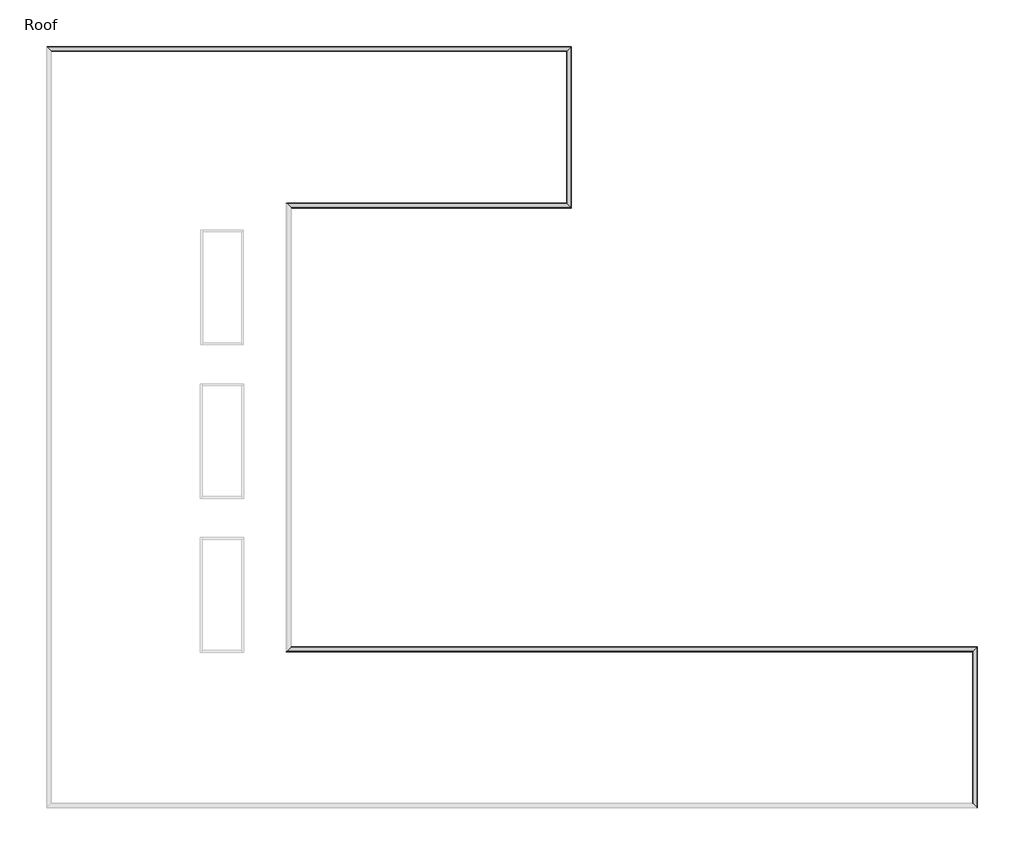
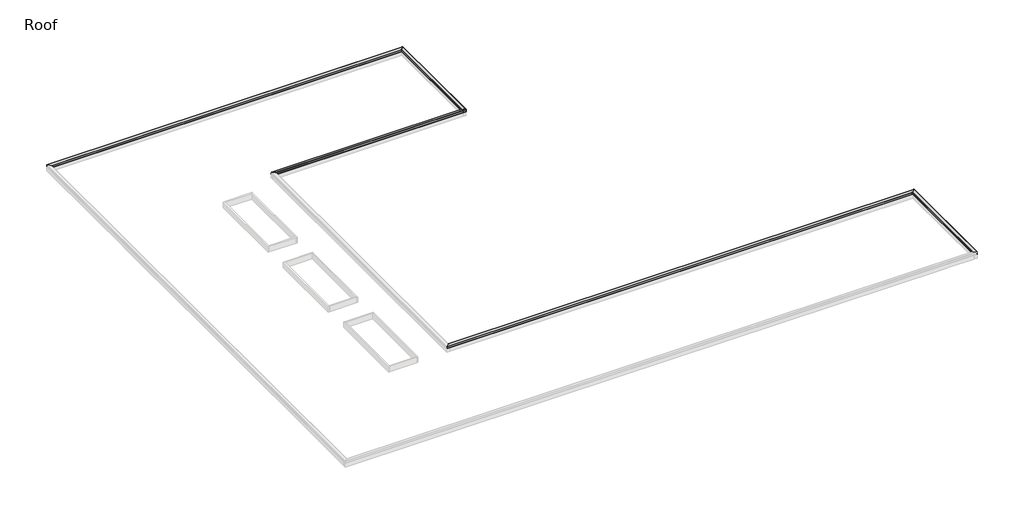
# One storey, part 2 of 2: 5 proxies.
"""IFC4 building model written with IfcOpenShell, lengths in millimetres."""

import ifcopenshell
import ifcopenshell.guid

model = None  # the IFC model being written
_history = None  # IfcOwnerHistory: only IFC2X3 demands one
_inside = {}  # id of a spatial element -> (the spatial element, [elements in it])
_under = {}  # id of a project, library or spatial element -> (it, [spatial elements below it])
_declared = {}  # id of a project -> (the project, [libraries it declares])
_typed = {}  # id of a type object -> (the type object, [elements of that type])
_made_of = {}  # id of a material, layer set ... -> (it, [elements and type objects made of it])


def new_model(schema):
    """Start an empty IFC model of exactly this schema.

    Asked for "IFC4X3", IfcOpenShell would pick the latest addendum, in which some entities
    have other attributes; the version numbers below select the first issue.
    IFC2X3 requires an IfcOwnerHistory on every rooted entity: one is made here for all.
    """
    global model, _history
    if schema == "IFC4X3":
        model = ifcopenshell.file(schema_version=(4, 3, 0, 0))
    else:
        model = ifcopenshell.file(schema=schema)
    _inside.clear()
    _under.clear()
    _declared.clear()
    _typed.clear()
    _made_of.clear()
    _history = None
    if model.schema == "IFC2X3":
        org = make("IfcOrganization", Name="unknown")
        user = make(
            "IfcPersonAndOrganization",
            ThePerson=make("IfcPerson", FamilyName="unknown"),
            TheOrganization=org,
        )
        app = make(
            "IfcApplication",
            ApplicationDeveloper=org,
            Version="unknown",
            ApplicationFullName="unknown",
            ApplicationIdentifier="unknown",
        )
        _history = make(
            "IfcOwnerHistory",
            OwningUser=user,
            OwningApplication=app,
            ChangeAction="ADDED",
            CreationDate=0,
        )
    return model


def make(cls, **values):
    """One entity of the class cls with the attributes given. An attribute that is None is left unset."""
    return model.create_entity(
        cls, **{name: value for name, value in values.items() if value is not None}
    )


def rooted(cls, **values):
    """An entity with a GlobalId (a new one), such as an element, a storey or a relation."""
    return make(cls, GlobalId=ifcopenshell.guid.new(), OwnerHistory=_history, **values)


def si_unit(unit_type, name, prefix=None):
    """IfcSIUnit, for example si_unit("LENGTHUNIT", "METRE", prefix="MILLI")."""
    return make("IfcSIUnit", UnitType=unit_type, Prefix=prefix, Name=name)


def assignment(units):
    """IfcUnitAssignment: the units of a project."""
    return None if units is None else make("IfcUnitAssignment", Units=units)


def point(xyz):
    """IfcCartesianPoint."""
    return None if xyz is None else make("IfcCartesianPoint", Coordinates=xyz)


def direction(xyz):
    """IfcDirection."""
    return None if xyz is None else make("IfcDirection", DirectionRatios=xyz)


def frame(location, z_axis=None, x_axis=None):
    """IfcAxis2Placement3D, a coordinate frame: its origin and axes. An axis left out is left unset."""
    return make(
        "IfcAxis2Placement3D",
        Location=point(location),
        Axis=direction(z_axis),
        RefDirection=direction(x_axis),
    )


def origin():
    """The frame at (0, 0, 0) with its axes left unset."""
    return frame((0.0, 0.0, 0.0))


def place(relative_to, where):
    """IfcLocalPlacement: puts the frame where relative to a parent placement (None: the world)."""
    return make(
        "IfcLocalPlacement", PlacementRelTo=relative_to, RelativePlacement=where
    )


def context(
    kind, dimensions, precision=None, world=None, true_north=None, identifier=None
):
    """IfcGeometricRepresentationContext, for example the 3D "Model" context."""
    return make(
        "IfcGeometricRepresentationContext",
        ContextIdentifier=identifier,
        ContextType=kind,
        CoordinateSpaceDimension=dimensions,
        Precision=precision,
        WorldCoordinateSystem=world,
        TrueNorth=true_north,
    )


def project(units=None, contexts=None):
    """IfcProject with its units and contexts."""
    return rooted(
        "IfcProject",
        Name="project",
        RepresentationContexts=contexts,
        UnitsInContext=assignment(units),
    )


def spatial(cls, under=None, at=None, **own):
    """A site, building, storey or space (cls), placed at a placement, below another one or the project."""
    s = rooted(cls, ObjectPlacement=at, **own)
    if under is not None:
        _under.setdefault(under.id(), (under, []))[1].append(s)
    return s


def ellipse_curve(where, semi_axis1, semi_axis2):
    """IfcEllipse in the frame where."""
    return make(
        "IfcEllipse", Position=where, SemiAxis1=semi_axis1, SemiAxis2=semi_axis2
    )


def shape(context_of_items, identifier, shape_type, items):
    """IfcShapeRepresentation: the items that make up one representation, for example the "Body"."""
    return make(
        "IfcShapeRepresentation",
        ContextOfItems=context_of_items,
        RepresentationIdentifier=identifier,
        RepresentationType=shape_type,
        Items=items,
    )


def made_of(thing, what):
    """Note that an element or type object is made of a material, layer set ...; save() writes the relation."""
    if what is not None:
        _made_of.setdefault(what.id(), (what, []))[1].append(thing)
    return thing


def element(
    cls,
    number,
    at=None,
    inside=None,
    cuts=None,
    type_object=None,
    material=None,
    context=None,
    identifier="Body",
    shape_type=None,
    held_by="IfcProductDefinitionShape",
    body=None,
    shapes=None,
    **own,
):
    """One element of the class cls, such as IfcWall. Its Tag is "e" and its number.

    at: its placement. inside: the storey or other place that contains it. cuts: it is an
    opening in that element (IfcRelVoidsElement). A single representation is given by context,
    identifier, shape_type and body (its items); several are given by shapes. held_by: the class
    of the entity that holds the representations. save() writes the other relations.
    """
    e = rooted(cls, Tag="e%d" % number, ObjectPlacement=at, **own)
    if body is not None:
        shapes = [shape(context, identifier, shape_type, body)]
    if shapes is not None:
        e.Representation = make(held_by, Representations=shapes)
    if inside is not None:
        _inside.setdefault(inside.id(), (inside, []))[1].append(e)
    if cuts is not None:
        rooted(
            "IfcRelVoidsElement", RelatingBuildingElement=cuts, RelatedOpeningElement=e
        )
    if type_object is not None:
        _typed.setdefault(type_object.id(), (type_object, []))[1].append(e)
    return made_of(e, material)


def aggregate(whole, parts):
    """IfcRelAggregates: a whole, such as a stair, and the parts it consists of."""
    return rooted("IfcRelAggregates", RelatingObject=whole, RelatedObjects=parts)


def save(model, path):
    """Write the relations noted so far, then the file.

    IfcRelAggregates (storeys below a building ...), IfcRelContainedInSpatialStructure (elements
    in a storey), IfcRelDefinesByType, IfcRelAssociatesMaterial and IfcRelDeclares: one each for
    every whole, place, type object, material and project.
    """
    for whole, parts in _under.values():
        aggregate(whole, parts)
    for where, things in _inside.values():
        rooted(
            "IfcRelContainedInSpatialStructure",
            RelatedElements=things,
            RelatingStructure=where,
        )
    for kind, things in _typed.values():
        rooted("IfcRelDefinesByType", RelatedObjects=things, RelatingType=kind)
    for what, things in _made_of.values():
        rooted("IfcRelAssociatesMaterial", RelatedObjects=things, RelatingMaterial=what)
    for by, libraries in _declared.values():
        rooted("IfcRelDeclares", RelatingContext=by, RelatedDefinitions=libraries)
    model.write(path)


def plane_surface(at):
    """IfcPlane: the flat surface through the origin of the frame at, square to its z axis."""
    return make("IfcPlane", Position=at)


def cylinder_surface(at, radius):
    """IfcCylindricalSurface: all points at the distance radius from the z axis of the frame at."""
    return make("IfcCylindricalSurface", Position=at, Radius=radius)


def advanced_brep(points, edges, surfaces, faces):
    """IfcAdvancedBrep: a solid bounded by faces that lie on surfaces and meet in shared edges.

    An edge is (start, end): straight between two places in points (the first is 0);
    or (start, end, curve); or (start, end, curve, False) where it runs against its curve.
    A face is (place in surfaces, loops), or (place, loops, False) where it looks against
    its surface's normal. A loop lists edges by number (the first is 1), with a minus sign
    where the edge is run from its end to its start. The first loop is the outer one.
    """
    corners = [point(p) for p in points]
    vertices = [make("IfcVertexPoint", VertexGeometry=c) for c in corners]
    made = []
    for start, end, *more in edges:
        made.append(
            make(
                "IfcEdgeCurve",
                EdgeStart=vertices[start],
                EdgeEnd=vertices[end],
                EdgeGeometry=more[0] if more else make("IfcPolyline", Points=[corners[start], corners[end]]),
                SameSense=more[1] if len(more) > 1 else True,
            )
        )
    hull = []
    for where, loops, *sense in faces:
        bounds = []
        for j, loop in enumerate(loops):
            ring = [make("IfcOrientedEdge", EdgeElement=made[abs(k) - 1], Orientation=k > 0) for k in loop]
            bounds.append(
                make(
                    "IfcFaceOuterBound" if j == 0 else "IfcFaceBound",
                    Bound=make("IfcEdgeLoop", EdgeList=ring),
                    Orientation=True,
                )
            )
        hull.append(make("IfcAdvancedFace", Bounds=bounds, FaceSurface=surfaces[where], SameSense=sense[0] if sense else True))
    return make("IfcAdvancedBrep", Outer=make("IfcClosedShell", CfsFaces=hull))


model = new_model("IFC4")

# Units and contexts
model_context = context("Model", 3, world=origin())
ifc_project = project(units=[si_unit("LENGTHUNIT", "METRE", prefix="MILLI")], contexts=[model_context])

# Site, building, storey
site = spatial("IfcSite", under=ifc_project)
building = spatial("IfcBuilding", under=site)
storey = spatial("IfcBuildingStorey", under=building, Name="Roof", Elevation=10972.8)

# Proxies
placement = place(None, origin())
element("IfcBuildingElementProxy", 1, Name="Wall Sweeps", at=placement, inside=storey, context=model_context, shape_type="AdvancedBrep", body=[
    advanced_brep(
    [(37361.1457476, 54038.425, 11636.9329619), (37361.1457476, 54038.425, 11647.1824239), (37364.3207476, 54041.6, 11647.1824239), (37364.3207476, 54041.6, 11431.2824239), (37381.3349718, 54058.6142242, 11414.2681997), (37379.1062599, 54056.3855122, 11412.0394878), (37361.1457476, 54038.425, 11430.0), (37361.1457476, 54038.425, 11633.7462366), (37053.1707476, 53730.45, 11607.2537634), (37053.1707476, 53730.45, 11430.0), (37035.2102354, 53712.4894877, 11412.0394878), (37032.9651714, 53710.2444237, 11414.2845518), (37049.9957476, 53727.275, 11431.3151281), (37049.9957476, 53727.275, 11607.5268817), (37044.7672416, 53722.0464939, 11607.0771178), (37045.8777162, 53723.1569685, 11609.8131313), (37361.1457476, 42551.275, 11636.9329619), (37045.8777162, 42866.5430314, 11609.8131313), (37044.7672416, 42867.653506, 11607.0771178), (37049.9957476, 42862.425, 11607.5268817), (37049.9957476, 42862.425, 11431.3151281), (37032.9651714, 42879.4555762, 11414.2845518), (37035.2102354, 42877.2105122, 11412.0394878), (37053.1707476, 42859.25, 11430.0), (37053.1707476, 42859.25, 11607.2537634), (37361.1457476, 42551.275, 11633.7462366), (37361.1457476, 42551.275, 11430.0), (37379.1062599, 42533.3144877, 11412.0394878), (37381.3349718, 42531.0857758, 11414.2681997), (37364.3207476, 42548.1, 11431.2824239), (37364.3207476, 42548.1, 11647.1824239), (37361.1457476, 42551.275, 11647.1824239)],
    [
        (0, 1),
        (1, 2, ellipse_curve(frame((37362.7332476, 54040.0125, 11647.1824239), z_axis=(-0.7071067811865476, 0.7071067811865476, 0.0), x_axis=(0.7071067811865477, 0.7071067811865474, 0.0)), 2.245064, 1.5875)),
        (2, 3),
        (3, 4),
        (4, 5),
        (5, 6),
        (6, 7),
        (7, 8),
        (8, 9),
        (9, 10),
        (10, 11),
        (11, 12),
        (12, 13),
        (13, 14),
        (14, 15, ellipse_curve(frame((37044.7672416, 53722.0464939, 11608.6704804), z_axis=(-0.7071067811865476, 0.7071067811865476, 0.0), x_axis=(0.7071067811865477, 0.7071067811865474, 0.0)), 2.2533551, 1.5933627)),
        (15, 0),
        (16, 17),
        (17, 18, ellipse_curve(frame((37044.7672416, 42867.653506, 11608.6704804), z_axis=(-0.7071067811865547, -0.7071067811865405, 0.0), x_axis=(-0.7071067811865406, 0.7071067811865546, 0.0)), 2.2533551, 1.5933627)),
        (18, 19),
        (19, 20),
        (20, 21),
        (21, 22),
        (22, 23),
        (23, 24),
        (24, 25),
        (25, 26),
        (26, 27),
        (27, 28),
        (28, 29),
        (29, 30),
        (30, 31, ellipse_curve(frame((37362.7332476, 42549.6875, 11647.1824239), z_axis=(-0.7071067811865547, -0.7071067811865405, 0.0), x_axis=(-0.7071067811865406, 0.7071067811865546, 0.0)), 2.245064, 1.5875)),
        (31, 16),
        (0, 16),
        (31, 1),
        (30, 2),
        (29, 3),
        (28, 4),
        (27, 5),
        (26, 6),
        (25, 7),
        (24, 8),
        (23, 9),
        (22, 10),
        (21, 11),
        (20, 12),
        (19, 13),
        (18, 14),
        (17, 15),
    ],
    [
        plane_surface(frame((37354.7957476, 54032.075, 11887.2), z_axis=(-0.7071067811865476, 0.7071067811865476, 0.0), x_axis=(-0.7071067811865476, -0.7071067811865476, 0.0))),
        plane_surface(frame((37354.7957476, 42557.625, 11887.2), z_axis=(-0.7071067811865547, -0.7071067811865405, 0.0), x_axis=(-0.7071067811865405, 0.7071067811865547, 0.0))),
        plane_surface(frame((37361.1457476, 54038.425, 11636.9329619), z_axis=(-1.0, 0.0, 0.0), x_axis=(0.0, -1.0, 0.0))),
        cylinder_surface(frame((37362.7332476, 54032.075, 11647.1824239), z_axis=(0.0, 1.0, 0.0), x_axis=(-1.0, 0.0, 0.0)), 1.5875),
        plane_surface(frame((37364.3207476, 54041.6, 11647.1824239), z_axis=(1.0, 0.0, 0.0), x_axis=(0.0, -1.0, 0.0))),
        plane_surface(frame((37364.3207476, 54041.6, 11431.2824239), z_axis=(0.7071067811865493, 0.0, 0.7071067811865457), x_axis=(0.0, -1.0, 0.0))),
        plane_surface(frame((37381.3349718, 54058.6142242, 11414.2681997), z_axis=(0.7071067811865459, 0.0, -0.7071067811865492), x_axis=(0.0, -1.0, 0.0))),
        plane_surface(frame((37379.1062599, 54056.3855122, 11412.0394878), z_axis=(-0.7071067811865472, 0.0, -0.7071067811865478), x_axis=(0.0, -1.0, 0.0))),
        plane_surface(frame((37361.1457476, 54038.425, 11430.0), z_axis=(-1.0, 0.0, 0.0), x_axis=(0.0, -1.0, 0.0))),
        plane_surface(frame((37361.1457476, 54038.425, 11633.7462366), z_axis=(0.08570499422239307, 0.0, -0.9963205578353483), x_axis=(0.0, -1.0, 0.0))),
        plane_surface(frame((37053.1707476, 53730.45, 11607.2537634), z_axis=(1.0, 0.0, 0.0), x_axis=(0.0, -1.0, 0.0))),
        plane_surface(frame((37053.1707476, 53730.45, 11430.0), z_axis=(0.707106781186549, 0.0, -0.707106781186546), x_axis=(0.0, -1.0, 0.0))),
        plane_surface(frame((37035.2102354, 53712.4894877, 11412.0394878), z_axis=(-0.7071067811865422, 0.0, -0.7071067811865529), x_axis=(0.0, -1.0, 0.0))),
        plane_surface(frame((37032.9651714, 53710.2444237, 11414.2845518), z_axis=(-0.7071067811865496, 0.0, 0.7071067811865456), x_axis=(0.0, -1.0, 0.0))),
        plane_surface(frame((37049.9957476, 53727.275, 11431.3151281), z_axis=(-1.0, 0.0, 0.0), x_axis=(0.0, -1.0, 0.0))),
        plane_surface(frame((37049.9957476, 53727.275, 11607.5268817), z_axis=(0.08570499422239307, 0.0, -0.9963205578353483), x_axis=(0.0, -1.0, 0.0))),
        cylinder_surface(frame((37044.7672416, 54032.075, 11608.6704804), z_axis=(0.0, 1.0, 0.0), x_axis=(-1.0, 0.0, 0.0)), 1.5933627),
        plane_surface(frame((37045.8777162, 53723.1569685, 11609.8131313), z_axis=(-0.08570499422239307, 0.0, 0.9963205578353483), x_axis=(0.0, -1.0, 0.0))),
    ],
    [
        (0, [[1, 2, 3, 4, 5, 6, 7, 8, 9, 10, 11, 12, 13, 14, 15, 16]]),
        (1, [[17, 18, 19, 20, 21, 22, 23, 24, 25, 26, 27, 28, 29, 30, 31, 32]]),
        (2, [[-1, 33, -32, 34]]),
        (3, [[-2, -34, -31, 35]]),
        (4, [[-3, -35, -30, 36]]),
        (5, [[-4, -36, -29, 37]]),
        (6, [[-5, -37, -28, 38]]),
        (7, [[-6, -38, -27, 39]]),
        (8, [[-7, -39, -26, 40]]),
        (9, [[-8, -40, -25, 41]]),
        (10, [[-9, -41, -24, 42]]),
        (11, [[-10, -42, -23, 43]]),
        (12, [[-11, -43, -22, 44]]),
        (13, [[-12, -44, -21, 45]]),
        (14, [[-13, -45, -20, 46]]),
        (15, [[-14, -46, -19, 47]]),
        (16, [[-15, -47, -18, 48]]),
        (17, [[-16, -48, -17, -33]]),
    ],
),
])
element("IfcBuildingElementProxy", 2, Name="Wall Sweeps", at=placement, inside=storey, context=model_context, shape_type="AdvancedBrep", body=[
    advanced_brep(
    [(37361.1457476, 42551.275, 11636.9329619), (37361.1457476, 42551.275, 11647.1824239), (37364.3207476, 42548.1, 11647.1824239), (37364.3207476, 42548.1, 11431.2824239), (37381.3349718, 42531.0857758, 11414.2681997), (37379.1062599, 42533.3144877, 11412.0394878), (37361.1457476, 42551.275, 11430.0), (37361.1457476, 42551.275, 11633.7462366), (37053.1707476, 42859.25, 11607.2537634), (37053.1707476, 42859.25, 11430.0), (37035.2102354, 42877.2105122, 11412.0394878), (37032.9651714, 42879.4555762, 11414.2845518), (37049.9957476, 42862.425, 11431.3151281), (37049.9957476, 42862.425, 11607.5268817), (37044.7672416, 42867.653506, 11607.0771178), (37045.8777162, 42866.5430314, 11609.8131313), (17384.0457476, 42551.275, 11636.9329619), (17068.7777162, 42866.5430314, 11609.8131313), (17067.6672416, 42867.653506, 11607.0771178), (17072.8957476, 42862.425, 11607.5268817), (17072.8957476, 42862.425, 11431.3151281), (17055.8651714, 42879.4555762, 11414.2845518), (17058.1102354, 42877.2105122, 11412.0394878), (17076.0707476, 42859.25, 11430.0), (17076.0707476, 42859.25, 11607.2537634), (17384.0457476, 42551.275, 11633.7462366), (17384.0457476, 42551.275, 11430.0), (17402.0062599, 42533.3144877, 11412.0394878), (17404.2349718, 42531.0857758, 11414.2681997), (17387.2207476, 42548.1, 11431.2824239), (17387.2207476, 42548.1, 11647.1824239), (17384.0457476, 42551.275, 11647.1824239)],
    [
        (0, 1),
        (1, 2, ellipse_curve(frame((37362.7332476, 42549.6875, 11647.1824239), z_axis=(0.7071067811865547, 0.7071067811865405, 0.0), x_axis=(0.7071067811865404, -0.7071067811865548, 0.0)), 2.245064, 1.5875)),
        (2, 3),
        (3, 4),
        (4, 5),
        (5, 6),
        (6, 7),
        (7, 8),
        (8, 9),
        (9, 10),
        (10, 11),
        (11, 12),
        (12, 13),
        (13, 14),
        (14, 15, ellipse_curve(frame((37044.7672416, 42867.653506, 11608.6704804), z_axis=(0.7071067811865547, 0.7071067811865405, 0.0), x_axis=(0.7071067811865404, -0.7071067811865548, 0.0)), 2.2533551, 1.5933627)),
        (15, 0),
        (16, 17),
        (17, 18, ellipse_curve(frame((17067.6672416, 42867.653506, 11608.6704804), z_axis=(-0.7071067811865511, -0.707106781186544, 0.0), x_axis=(0.7071067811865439, -0.7071067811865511, 0.0)), 2.2533551, 1.5933627)),
        (18, 19),
        (19, 20),
        (20, 21),
        (21, 22),
        (22, 23),
        (23, 24),
        (24, 25),
        (25, 26),
        (26, 27),
        (27, 28),
        (28, 29),
        (29, 30),
        (30, 31, ellipse_curve(frame((17385.6332476, 42549.6875, 11647.1824239), z_axis=(-0.7071067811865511, -0.707106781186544, 0.0), x_axis=(0.7071067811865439, -0.7071067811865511, 0.0)), 2.245064, 1.5875)),
        (31, 16),
        (0, 16),
        (31, 1),
        (30, 2),
        (29, 3),
        (28, 4),
        (27, 5),
        (26, 6),
        (25, 7),
        (24, 8),
        (23, 9),
        (22, 10),
        (21, 11),
        (20, 12),
        (19, 13),
        (18, 14),
        (17, 15),
    ],
    [
        plane_surface(frame((37354.7957476, 42557.625, 11887.2), z_axis=(0.7071067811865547, 0.7071067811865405, 0.0), x_axis=(-0.7071067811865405, 0.7071067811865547, 0.0))),
        plane_surface(frame((17377.6957476, 42557.625, 11277.6), z_axis=(-0.7071067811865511, -0.707106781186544, 0.0), x_axis=(0.707106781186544, -0.7071067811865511, 0.0))),
        plane_surface(frame((37361.1457476, 42551.275, 11636.9329619), z_axis=(0.0, 1.0, 0.0), x_axis=(-1.0, 0.0, 0.0))),
        cylinder_surface(frame((37354.7957476, 42549.6875, 11647.1824239), z_axis=(1.0, 0.0, 0.0), x_axis=(0.0, 1.0, 0.0)), 1.5875),
        plane_surface(frame((37364.3207476, 42548.1, 11647.1824239), z_axis=(0.0, -1.0, 0.0), x_axis=(-1.0, 0.0, 0.0))),
        plane_surface(frame((37364.3207476, 42548.1, 11431.2824239), z_axis=(0.0, -0.7071067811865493, 0.7071067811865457), x_axis=(-1.0, 0.0, 0.0))),
        plane_surface(frame((37381.3349718, 42531.0857758, 11414.2681997), z_axis=(0.0, -0.7071067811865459, -0.7071067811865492), x_axis=(-1.0, 0.0, 0.0))),
        plane_surface(frame((37379.1062599, 42533.3144877, 11412.0394878), z_axis=(0.0, 0.7071067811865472, -0.7071067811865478), x_axis=(-1.0, 0.0, 0.0))),
        plane_surface(frame((37361.1457476, 42551.275, 11430.0), z_axis=(0.0, 1.0, 0.0), x_axis=(-1.0, 0.0, 0.0))),
        plane_surface(frame((37361.1457476, 42551.275, 11633.7462366), z_axis=(0.0, -0.08570499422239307, -0.9963205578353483), x_axis=(-1.0, 0.0, 0.0))),
        plane_surface(frame((37053.1707476, 42859.25, 11607.2537634), z_axis=(0.0, -1.0, 0.0), x_axis=(-1.0, 0.0, 0.0))),
        plane_surface(frame((37053.1707476, 42859.25, 11430.0), z_axis=(0.0, -0.707106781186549, -0.707106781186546), x_axis=(-1.0, 0.0, 0.0))),
        plane_surface(frame((37035.2102354, 42877.2105122, 11412.0394878), z_axis=(0.0, 0.7071067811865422, -0.7071067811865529), x_axis=(-1.0, 0.0, 0.0))),
        plane_surface(frame((37032.9651714, 42879.4555762, 11414.2845518), z_axis=(0.0, 0.7071067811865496, 0.7071067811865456), x_axis=(-1.0, 0.0, 0.0))),
        plane_surface(frame((37049.9957476, 42862.425, 11431.3151281), z_axis=(0.0, 1.0, 0.0), x_axis=(-1.0, 0.0, 0.0))),
        plane_surface(frame((37049.9957476, 42862.425, 11607.5268817), z_axis=(0.0, -0.08570499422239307, -0.9963205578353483), x_axis=(-1.0, 0.0, 0.0))),
        cylinder_surface(frame((37354.7957476, 42867.653506, 11608.6704804), z_axis=(1.0, 0.0, 0.0), x_axis=(0.0, 1.0, 0.0)), 1.5933627),
        plane_surface(frame((37045.8777162, 42866.5430314, 11609.8131313), z_axis=(0.0, 0.08570499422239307, 0.9963205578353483), x_axis=(-1.0, 0.0, 0.0))),
    ],
    [
        (0, [[1, 2, 3, 4, 5, 6, 7, 8, 9, 10, 11, 12, 13, 14, 15, 16]]),
        (1, [[17, 18, 19, 20, 21, 22, 23, 24, 25, 26, 27, 28, 29, 30, 31, 32]]),
        (2, [[-1, 33, -32, 34]]),
        (3, [[-2, -34, -31, 35]]),
        (4, [[-3, -35, -30, 36]]),
        (5, [[-4, -36, -29, 37]]),
        (6, [[-5, -37, -28, 38]]),
        (7, [[-6, -38, -27, 39]]),
        (8, [[-7, -39, -26, 40]]),
        (9, [[-8, -40, -25, 41]]),
        (10, [[-9, -41, -24, 42]]),
        (11, [[-10, -42, -23, 43]]),
        (12, [[-11, -43, -22, 44]]),
        (13, [[-12, -44, -21, 45]]),
        (14, [[-13, -45, -20, 46]]),
        (15, [[-14, -46, -19, 47]]),
        (16, [[-15, -47, -18, 48]]),
        (17, [[-16, -48, -17, -33]]),
    ],
),
])
element("IfcBuildingElementProxy", 3, Name="Wall Sweeps", at=placement, inside=storey, context=model_context, shape_type="AdvancedBrep", body=[
    advanced_brep(
    [(17384.0457476, 11201.325, 11636.9329619), (17384.0457476, 11201.325, 11647.1824239), (17387.2207476, 11204.5, 11647.1824239), (17387.2207476, 11204.5, 11431.2824239), (17404.2349718, 11221.5142242, 11414.2681997), (17402.0062599, 11219.2855122, 11412.0394878), (17384.0457476, 11201.325, 11430.0), (17384.0457476, 11201.325, 11633.7462366), (17076.0707476, 10893.35, 11607.2537634), (17076.0707476, 10893.35, 11430.0), (17058.1102354, 10875.3894877, 11412.0394878), (17055.8651714, 10873.1444237, 11414.2845518), (17072.8957476, 10890.175, 11431.3151281), (17072.8957476, 10890.175, 11607.5268817), (17067.6672416, 10884.9464939, 11607.0771178), (17068.7777162, 10886.0569685, 11609.8131313), (66317.1457476, 11201.325, 11636.9329619), (66001.8777162, 10886.0569685, 11609.8131313), (66000.7672416, 10884.9464939, 11607.0771178), (66005.9957476, 10890.175, 11607.5268817), (66005.9957476, 10890.175, 11431.3151281), (65988.9651714, 10873.1444237, 11414.2845518), (65991.2102354, 10875.3894877, 11412.0394878), (66009.1707476, 10893.35, 11430.0), (66009.1707476, 10893.35, 11607.2537634), (66317.1457476, 11201.325, 11633.7462366), (66317.1457476, 11201.325, 11430.0), (66335.1062599, 11219.2855122, 11412.0394878), (66337.3349718, 11221.5142242, 11414.2681997), (66320.3207476, 11204.5, 11431.2824239), (66320.3207476, 11204.5, 11647.1824239), (66317.1457476, 11201.325, 11647.1824239)],
    [
        (0, 1),
        (1, 2, ellipse_curve(frame((17385.6332476, 11202.9125, 11647.1824239), z_axis=(-0.7071067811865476, 0.7071067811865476, 0.0), x_axis=(-0.7071067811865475, -0.7071067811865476, 0.0)), 2.245064, 1.5875)),
        (2, 3),
        (3, 4),
        (4, 5),
        (5, 6),
        (6, 7),
        (7, 8),
        (8, 9),
        (9, 10),
        (10, 11),
        (11, 12),
        (12, 13),
        (13, 14),
        (14, 15, ellipse_curve(frame((17067.6672416, 10884.9464939, 11608.6704804), z_axis=(-0.7071067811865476, 0.7071067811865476, 0.0), x_axis=(-0.7071067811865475, -0.7071067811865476, 0.0)), 2.2533551, 1.5933627)),
        (15, 0),
        (16, 17),
        (17, 18, ellipse_curve(frame((66000.7672416, 10884.9464939, 11608.6704804), z_axis=(0.707106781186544, -0.7071067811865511, 0.0), x_axis=(-0.7071067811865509, -0.707106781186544, 0.0)), 2.2533551, 1.5933627)),
        (18, 19),
        (19, 20),
        (20, 21),
        (21, 22),
        (22, 23),
        (23, 24),
        (24, 25),
        (25, 26),
        (26, 27),
        (27, 28),
        (28, 29),
        (29, 30),
        (30, 31, ellipse_curve(frame((66318.7332476, 11202.9125, 11647.1824239), z_axis=(0.707106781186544, -0.7071067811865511, 0.0), x_axis=(-0.7071067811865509, -0.707106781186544, 0.0)), 2.245064, 1.5875)),
        (31, 16),
        (0, 16),
        (31, 1),
        (30, 2),
        (29, 3),
        (28, 4),
        (27, 5),
        (26, 6),
        (25, 7),
        (24, 8),
        (23, 9),
        (22, 10),
        (21, 11),
        (20, 12),
        (19, 13),
        (18, 14),
        (17, 15),
    ],
    [
        plane_surface(frame((17377.6957476, 11194.975, 11277.6), z_axis=(-0.7071067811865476, 0.7071067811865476, 0.0), x_axis=(0.7071067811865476, 0.7071067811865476, 0.0))),
        plane_surface(frame((66310.7957476, 11194.975, 11887.2), z_axis=(0.707106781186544, -0.7071067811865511, 0.0), x_axis=(-0.7071067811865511, -0.707106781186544, 0.0))),
        plane_surface(frame((17384.0457476, 11201.325, 11636.9329619), z_axis=(0.0, -1.0, 0.0), x_axis=(1.0, 0.0, 0.0))),
        cylinder_surface(frame((17377.6957476, 11202.9125, 11647.1824239), z_axis=(-1.0, 0.0, 0.0), x_axis=(0.0, -1.0, 0.0)), 1.5875),
        plane_surface(frame((17387.2207476, 11204.5, 11647.1824239), z_axis=(0.0, 1.0, 0.0), x_axis=(1.0, 0.0, 0.0))),
        plane_surface(frame((17387.2207476, 11204.5, 11431.2824239), z_axis=(0.0, 0.7071067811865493, 0.7071067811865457), x_axis=(1.0, 0.0, 0.0))),
        plane_surface(frame((17404.2349718, 11221.5142242, 11414.2681997), z_axis=(0.0, 0.7071067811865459, -0.7071067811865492), x_axis=(1.0, 0.0, 0.0))),
        plane_surface(frame((17402.0062599, 11219.2855122, 11412.0394878), z_axis=(0.0, -0.7071067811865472, -0.7071067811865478), x_axis=(1.0, 0.0, 0.0))),
        plane_surface(frame((17384.0457476, 11201.325, 11430.0), z_axis=(0.0, -1.0, 0.0), x_axis=(1.0, 0.0, 0.0))),
        plane_surface(frame((17384.0457476, 11201.325, 11633.7462366), z_axis=(0.0, 0.08570499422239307, -0.9963205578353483), x_axis=(1.0, 0.0, 0.0))),
        plane_surface(frame((17076.0707476, 10893.35, 11607.2537634), z_axis=(0.0, 1.0, 0.0), x_axis=(1.0, 0.0, 0.0))),
        plane_surface(frame((17076.0707476, 10893.35, 11430.0), z_axis=(0.0, 0.707106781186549, -0.707106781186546), x_axis=(1.0, 0.0, 0.0))),
        plane_surface(frame((17058.1102354, 10875.3894877, 11412.0394878), z_axis=(0.0, -0.7071067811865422, -0.7071067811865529), x_axis=(1.0, 0.0, 0.0))),
        plane_surface(frame((17055.8651714, 10873.1444237, 11414.2845518), z_axis=(0.0, -0.7071067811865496, 0.7071067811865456), x_axis=(1.0, 0.0, 0.0))),
        plane_surface(frame((17072.8957476, 10890.175, 11431.3151281), z_axis=(0.0, -1.0, 0.0), x_axis=(1.0, 0.0, 0.0))),
        plane_surface(frame((17072.8957476, 10890.175, 11607.5268817), z_axis=(0.0, 0.08570499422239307, -0.9963205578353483), x_axis=(1.0, 0.0, 0.0))),
        cylinder_surface(frame((17377.6957476, 10884.9464939, 11608.6704804), z_axis=(-1.0, 0.0, 0.0), x_axis=(0.0, -1.0, 0.0)), 1.5933627),
        plane_surface(frame((17068.7777162, 10886.0569685, 11609.8131313), z_axis=(0.0, -0.08570499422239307, 0.9963205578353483), x_axis=(1.0, 0.0, 0.0))),
    ],
    [
        (0, [[1, 2, 3, 4, 5, 6, 7, 8, 9, 10, 11, 12, 13, 14, 15, 16]]),
        (1, [[17, 18, 19, 20, 21, 22, 23, 24, 25, 26, 27, 28, 29, 30, 31, 32]]),
        (2, [[-1, 33, -32, 34]]),
        (3, [[-2, -34, -31, 35]]),
        (4, [[-3, -35, -30, 36]]),
        (5, [[-4, -36, -29, 37]]),
        (6, [[-5, -37, -28, 38]]),
        (7, [[-6, -38, -27, 39]]),
        (8, [[-7, -39, -26, 40]]),
        (9, [[-8, -40, -25, 41]]),
        (10, [[-9, -41, -24, 42]]),
        (11, [[-10, -42, -23, 43]]),
        (12, [[-11, -43, -22, 44]]),
        (13, [[-12, -44, -21, 45]]),
        (14, [[-13, -45, -20, 46]]),
        (15, [[-14, -46, -19, 47]]),
        (16, [[-15, -47, -18, 48]]),
        (17, [[-16, -48, -17, -33]]),
    ],
),
])
element("IfcBuildingElementProxy", 4, Name="Wall Sweeps", at=placement, inside=storey, context=model_context, shape_type="AdvancedBrep", body=[
    advanced_brep(
    [(66317.1457476, 11201.325, 11636.9329619), (66317.1457476, 11201.325, 11647.1824239), (66320.3207476, 11204.5, 11647.1824239), (66320.3207476, 11204.5, 11431.2824239), (66337.3349718, 11221.5142242, 11414.2681997), (66335.1062599, 11219.2855122, 11412.0394878), (66317.1457476, 11201.325, 11430.0), (66317.1457476, 11201.325, 11633.7462366), (66009.1707476, 10893.35, 11607.2537634), (66009.1707476, 10893.35, 11430.0), (65991.2102354, 10875.3894877, 11412.0394878), (65988.9651714, 10873.1444237, 11414.2845518), (66005.9957476, 10890.175, 11431.3151281), (66005.9957476, 10890.175, 11607.5268817), (66000.7672416, 10884.9464939, 11607.0771178), (66001.8777162, 10886.0569685, 11609.8131313), (66317.1457476, -260.425, 11636.9329619), (66001.8777162, 54.8430314, 11609.8131313), (66000.7672416, 55.953506, 11607.0771178), (66005.9957476, 50.725, 11607.5268817), (66005.9957476, 50.725, 11431.3151281), (65988.9651714, 67.7555762, 11414.2845518), (65991.2102354, 65.5105122, 11412.0394878), (66009.1707476, 47.55, 11430.0), (66009.1707476, 47.55, 11607.2537634), (66317.1457476, -260.425, 11633.7462366), (66317.1457476, -260.425, 11430.0), (66335.1062599, -278.3855123, 11412.0394878), (66337.3349718, -280.6142242, 11414.2681997), (66320.3207476, -263.6, 11431.2824239), (66320.3207476, -263.6, 11647.1824239), (66317.1457476, -260.425, 11647.1824239)],
    [
        (0, 1),
        (1, 2, ellipse_curve(frame((66318.7332476, 11202.9125, 11647.1824239), z_axis=(-0.707106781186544, 0.7071067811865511, 0.0), x_axis=(0.7071067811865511, 0.7071067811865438, 0.0)), 2.245064, 1.5875)),
        (2, 3),
        (3, 4),
        (4, 5),
        (5, 6),
        (6, 7),
        (7, 8),
        (8, 9),
        (9, 10),
        (10, 11),
        (11, 12),
        (12, 13),
        (13, 14),
        (14, 15, ellipse_curve(frame((66000.7672416, 10884.9464939, 11608.6704804), z_axis=(-0.707106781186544, 0.7071067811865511, 0.0), x_axis=(0.7071067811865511, 0.7071067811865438, 0.0)), 2.2533551, 1.5933627)),
        (15, 0),
        (16, 17),
        (17, 18, ellipse_curve(frame((66000.7672416, 55.953506, 11608.6704804), z_axis=(-0.7071067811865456, -0.7071067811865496, 0.0), x_axis=(-0.7071067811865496, 0.7071067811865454, 0.0)), 2.2533551, 1.5933627)),
        (18, 19),
        (19, 20),
        (20, 21),
        (21, 22),
        (22, 23),
        (23, 24),
        (24, 25),
        (25, 26),
        (26, 27),
        (27, 28),
        (28, 29),
        (29, 30),
        (30, 31, ellipse_curve(frame((66318.7332476, -262.0125, 11647.1824239), z_axis=(-0.7071067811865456, -0.7071067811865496, 0.0), x_axis=(-0.7071067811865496, 0.7071067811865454, 0.0)), 2.245064, 1.5875)),
        (31, 16),
        (0, 16),
        (31, 1),
        (30, 2),
        (29, 3),
        (28, 4),
        (27, 5),
        (26, 6),
        (25, 7),
        (24, 8),
        (23, 9),
        (22, 10),
        (21, 11),
        (20, 12),
        (19, 13),
        (18, 14),
        (17, 15),
    ],
    [
        plane_surface(frame((66310.7957476, 11194.975, 11887.2), z_axis=(-0.707106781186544, 0.7071067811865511, 0.0), x_axis=(-0.7071067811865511, -0.707106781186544, 0.0))),
        plane_surface(frame((66310.7957476, -254.075, 11887.2), z_axis=(-0.7071067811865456, -0.7071067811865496, 0.0), x_axis=(-0.7071067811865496, 0.7071067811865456, 0.0))),
        plane_surface(frame((66317.1457476, 11201.325, 11636.9329619), z_axis=(-1.0, 0.0, 0.0), x_axis=(0.0, -1.0, 0.0))),
        cylinder_surface(frame((66318.7332476, 11194.975, 11647.1824239), z_axis=(0.0, 1.0, 0.0), x_axis=(-1.0, 0.0, 0.0)), 1.5875),
        plane_surface(frame((66320.3207476, 11204.5, 11647.1824239), z_axis=(1.0, 0.0, 0.0), x_axis=(0.0, -1.0, 0.0))),
        plane_surface(frame((66320.3207476, 11204.5, 11431.2824239), z_axis=(0.7071067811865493, 0.0, 0.7071067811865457), x_axis=(0.0, -1.0, 0.0))),
        plane_surface(frame((66337.3349718, 11221.5142242, 11414.2681997), z_axis=(0.7071067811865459, 0.0, -0.7071067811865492), x_axis=(0.0, -1.0, 0.0))),
        plane_surface(frame((66335.1062599, 11219.2855122, 11412.0394878), z_axis=(-0.7071067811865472, 0.0, -0.7071067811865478), x_axis=(0.0, -1.0, 0.0))),
        plane_surface(frame((66317.1457476, 11201.325, 11430.0), z_axis=(-1.0, 0.0, 0.0), x_axis=(0.0, -1.0, 0.0))),
        plane_surface(frame((66317.1457476, 11201.325, 11633.7462366), z_axis=(0.08570499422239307, 0.0, -0.9963205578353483), x_axis=(0.0, -1.0, 0.0))),
        plane_surface(frame((66009.1707476, 10893.35, 11607.2537634), z_axis=(1.0, 0.0, 0.0), x_axis=(0.0, -1.0, 0.0))),
        plane_surface(frame((66009.1707476, 10893.35, 11430.0), z_axis=(0.707106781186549, 0.0, -0.707106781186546), x_axis=(0.0, -1.0, 0.0))),
        plane_surface(frame((65991.2102354, 10875.3894877, 11412.0394878), z_axis=(-0.7071067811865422, 0.0, -0.7071067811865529), x_axis=(0.0, -1.0, 0.0))),
        plane_surface(frame((65988.9651714, 10873.1444237, 11414.2845518), z_axis=(-0.7071067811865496, 0.0, 0.7071067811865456), x_axis=(0.0, -1.0, 0.0))),
        plane_surface(frame((66005.9957476, 10890.175, 11431.3151281), z_axis=(-1.0, 0.0, 0.0), x_axis=(0.0, -1.0, 0.0))),
        plane_surface(frame((66005.9957476, 10890.175, 11607.5268817), z_axis=(0.08570499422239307, 0.0, -0.9963205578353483), x_axis=(0.0, -1.0, 0.0))),
        cylinder_surface(frame((66000.7672416, 11194.975, 11608.6704804), z_axis=(0.0, 1.0, 0.0), x_axis=(-1.0, 0.0, 0.0)), 1.5933627),
        plane_surface(frame((66001.8777162, 10886.0569685, 11609.8131313), z_axis=(-0.08570499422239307, 0.0, 0.9963205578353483), x_axis=(0.0, -1.0, 0.0))),
    ],
    [
        (0, [[1, 2, 3, 4, 5, 6, 7, 8, 9, 10, 11, 12, 13, 14, 15, 16]]),
        (1, [[17, 18, 19, 20, 21, 22, 23, 24, 25, 26, 27, 28, 29, 30, 31, 32]]),
        (2, [[-1, 33, -32, 34]]),
        (3, [[-2, -34, -31, 35]]),
        (4, [[-3, -35, -30, 36]]),
        (5, [[-4, -36, -29, 37]]),
        (6, [[-5, -37, -28, 38]]),
        (7, [[-6, -38, -27, 39]]),
        (8, [[-7, -39, -26, 40]]),
        (9, [[-8, -40, -25, 41]]),
        (10, [[-9, -41, -24, 42]]),
        (11, [[-10, -42, -23, 43]]),
        (12, [[-11, -43, -22, 44]]),
        (13, [[-12, -44, -21, 45]]),
        (14, [[-13, -45, -20, 46]]),
        (15, [[-14, -46, -19, 47]]),
        (16, [[-15, -47, -18, 48]]),
        (17, [[-16, -48, -17, -33]]),
    ],
),
])
element("IfcBuildingElementProxy", 5, Name="Wall Sweeps", at=placement, inside=storey, context=model_context, shape_type="AdvancedBrep", body=[
    advanced_brep(
    [(-34.0042524, 54038.425, 11636.9329619), (-34.0042524, 54038.425, 11647.1824239), (-37.1792524, 54041.6, 11647.1824239), (-37.1792524, 54041.6, 11431.2824239), (-54.1934766, 54058.6142242, 11414.2681997), (-51.9647646, 54056.3855122, 11412.0394878), (-34.0042524, 54038.425, 11430.0), (-34.0042524, 54038.425, 11633.7462366), (273.9707476, 53730.45, 11607.2537634), (273.9707476, 53730.45, 11430.0), (291.9312599, 53712.4894877, 11412.0394878), (294.1763239, 53710.2444237, 11414.2845518), (277.1457476, 53727.275, 11431.3151281), (277.1457476, 53727.275, 11607.5268817), (282.3742537, 53722.0464939, 11607.0771178), (281.2637791, 53723.1569685, 11609.8131313), (37361.1457476, 54038.425, 11636.9329619), (37045.8777162, 53723.1569685, 11609.8131313), (37044.7672416, 53722.0464939, 11607.0771178), (37049.9957476, 53727.275, 11607.5268817), (37049.9957476, 53727.275, 11431.3151281), (37032.9651714, 53710.2444237, 11414.2845518), (37035.2102354, 53712.4894877, 11412.0394878), (37053.1707476, 53730.45, 11430.0), (37053.1707476, 53730.45, 11607.2537634), (37361.1457476, 54038.425, 11633.7462366), (37361.1457476, 54038.425, 11430.0), (37379.1062599, 54056.3855122, 11412.0394878), (37381.3349718, 54058.6142242, 11414.2681997), (37364.3207476, 54041.6, 11431.2824239), (37364.3207476, 54041.6, 11647.1824239), (37361.1457476, 54038.425, 11647.1824239)],
    [
        (0, 1),
        (1, 2, ellipse_curve(frame((-35.5917524, 54040.0125, 11647.1824239), z_axis=(-0.7071067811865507, -0.7071067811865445, 0.0), x_axis=(-0.7071067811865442, 0.7071067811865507, 0.0)), 2.245064, 1.5875)),
        (2, 3),
        (3, 4),
        (4, 5),
        (5, 6),
        (6, 7),
        (7, 8),
        (8, 9),
        (9, 10),
        (10, 11),
        (11, 12),
        (12, 13),
        (13, 14),
        (14, 15, ellipse_curve(frame((282.3742537, 53722.0464939, 11608.6704804), z_axis=(-0.7071067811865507, -0.7071067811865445, 0.0), x_axis=(-0.7071067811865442, 0.7071067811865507, 0.0)), 2.2533551, 1.5933627)),
        (15, 0),
        (16, 17),
        (17, 18, ellipse_curve(frame((37044.7672416, 53722.0464939, 11608.6704804), z_axis=(0.7071067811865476, -0.7071067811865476, 0.0), x_axis=(-0.7071067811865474, -0.7071067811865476, 0.0)), 2.2533551, 1.5933627)),
        (18, 19),
        (19, 20),
        (20, 21),
        (21, 22),
        (22, 23),
        (23, 24),
        (24, 25),
        (25, 26),
        (26, 27),
        (27, 28),
        (28, 29),
        (29, 30),
        (30, 31, ellipse_curve(frame((37362.7332476, 54040.0125, 11647.1824239), z_axis=(0.7071067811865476, -0.7071067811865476, 0.0), x_axis=(-0.7071067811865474, -0.7071067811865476, 0.0)), 2.245064, 1.5875)),
        (31, 16),
        (0, 16),
        (31, 1),
        (30, 2),
        (29, 3),
        (28, 4),
        (27, 5),
        (26, 6),
        (25, 7),
        (24, 8),
        (23, 9),
        (22, 10),
        (21, 11),
        (20, 12),
        (19, 13),
        (18, 14),
        (17, 15),
    ],
    [
        plane_surface(frame((-27.6542524, 54032.075, 11887.2), z_axis=(-0.7071067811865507, -0.7071067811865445, 0.0), x_axis=(0.7071067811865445, -0.7071067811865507, 0.0))),
        plane_surface(frame((37354.7957476, 54032.075, 11887.2), z_axis=(0.7071067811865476, -0.7071067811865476, 0.0), x_axis=(-0.7071067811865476, -0.7071067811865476, 0.0))),
        plane_surface(frame((-34.0042524, 54038.425, 11636.9329619), z_axis=(0.0, -1.0, 0.0), x_axis=(1.0, 0.0, 0.0))),
        cylinder_surface(frame((-27.6542524, 54040.0125, 11647.1824239), z_axis=(-1.0, 0.0, 0.0), x_axis=(0.0, -1.0, 0.0)), 1.5875),
        plane_surface(frame((-37.1792524, 54041.6, 11647.1824239), z_axis=(0.0, 1.0, 0.0), x_axis=(1.0, 0.0, 0.0))),
        plane_surface(frame((-37.1792524, 54041.6, 11431.2824239), z_axis=(0.0, 0.7071067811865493, 0.7071067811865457), x_axis=(1.0, 0.0, 0.0))),
        plane_surface(frame((-54.1934766, 54058.6142242, 11414.2681997), z_axis=(0.0, 0.7071067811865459, -0.7071067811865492), x_axis=(1.0, 0.0, 0.0))),
        plane_surface(frame((-51.9647646, 54056.3855122, 11412.0394878), z_axis=(0.0, -0.7071067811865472, -0.7071067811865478), x_axis=(1.0, 0.0, 0.0))),
        plane_surface(frame((-34.0042524, 54038.425, 11430.0), z_axis=(0.0, -1.0, 0.0), x_axis=(1.0, 0.0, 0.0))),
        plane_surface(frame((-34.0042524, 54038.425, 11633.7462366), z_axis=(0.0, 0.08570499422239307, -0.9963205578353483), x_axis=(1.0, 0.0, 0.0))),
        plane_surface(frame((273.9707476, 53730.45, 11607.2537634), z_axis=(0.0, 1.0, 0.0), x_axis=(1.0, 0.0, 0.0))),
        plane_surface(frame((273.9707476, 53730.45, 11430.0), z_axis=(0.0, 0.707106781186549, -0.707106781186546), x_axis=(1.0, 0.0, 0.0))),
        plane_surface(frame((291.9312599, 53712.4894877, 11412.0394878), z_axis=(0.0, -0.7071067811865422, -0.7071067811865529), x_axis=(1.0, 0.0, 0.0))),
        plane_surface(frame((294.1763239, 53710.2444237, 11414.2845518), z_axis=(0.0, -0.7071067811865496, 0.7071067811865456), x_axis=(1.0, 0.0, 0.0))),
        plane_surface(frame((277.1457476, 53727.275, 11431.3151281), z_axis=(0.0, -1.0, 0.0), x_axis=(1.0, 0.0, 0.0))),
        plane_surface(frame((277.1457476, 53727.275, 11607.5268817), z_axis=(0.0, 0.08570499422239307, -0.9963205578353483), x_axis=(1.0, 0.0, 0.0))),
        cylinder_surface(frame((-27.6542524, 53722.0464939, 11608.6704804), z_axis=(-1.0, 0.0, 0.0), x_axis=(0.0, -1.0, 0.0)), 1.5933627),
        plane_surface(frame((281.2637791, 53723.1569685, 11609.8131313), z_axis=(0.0, -0.08570499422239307, 0.9963205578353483), x_axis=(1.0, 0.0, 0.0))),
    ],
    [
        (0, [[1, 2, 3, 4, 5, 6, 7, 8, 9, 10, 11, 12, 13, 14, 15, 16]]),
        (1, [[17, 18, 19, 20, 21, 22, 23, 24, 25, 26, 27, 28, 29, 30, 31, 32]]),
        (2, [[-1, 33, -32, 34]]),
        (3, [[-2, -34, -31, 35]]),
        (4, [[-3, -35, -30, 36]]),
        (5, [[-4, -36, -29, 37]]),
        (6, [[-5, -37, -28, 38]]),
        (7, [[-6, -38, -27, 39]]),
        (8, [[-7, -39, -26, 40]]),
        (9, [[-8, -40, -25, 41]]),
        (10, [[-9, -41, -24, 42]]),
        (11, [[-10, -42, -23, 43]]),
        (12, [[-11, -43, -22, 44]]),
        (13, [[-12, -44, -21, 45]]),
        (14, [[-13, -45, -20, 46]]),
        (15, [[-14, -46, -19, 47]]),
        (16, [[-15, -47, -18, 48]]),
        (17, [[-16, -48, -17, -33]]),
    ],
),
])

save(model, "model.ifc")
